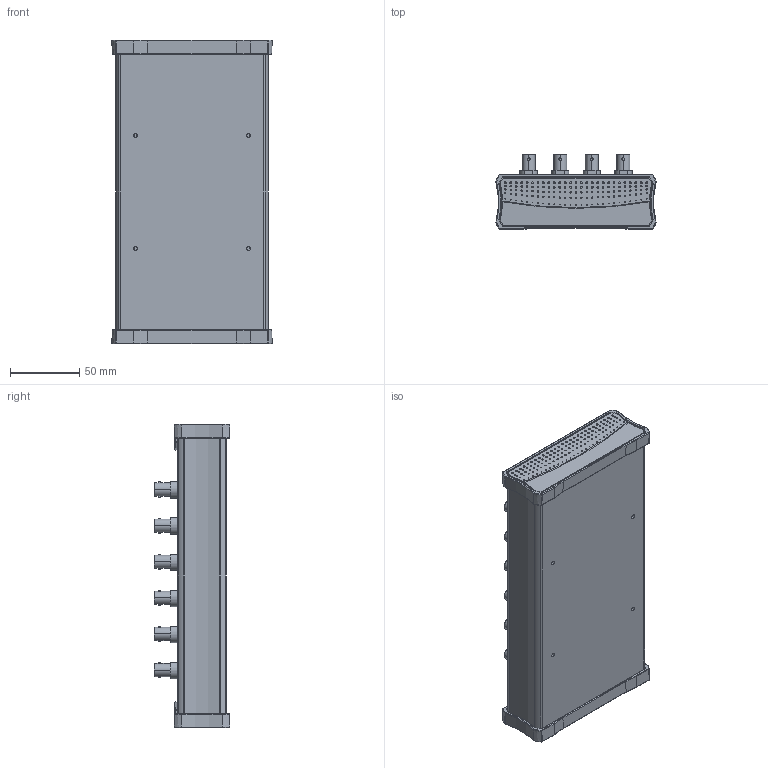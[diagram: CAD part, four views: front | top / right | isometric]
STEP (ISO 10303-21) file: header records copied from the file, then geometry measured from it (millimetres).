
FILE_DESCRIPTION((''),'2;1');
FILE_NAME('CD_BNC-2115','2008-01-15T',('scarrasc'),(''),'PRO/ENGINEER BY PARAMETRIC TECHNOLOGY CORPORATION, 2006080','PRO/ENGINEER BY PARAMETRIC TECHNOLOGY CORPORATION, 2006080','');
FILE_SCHEMA(('CONFIG_CONTROL_DESIGN'));
Products named in the file (1): CD_BNC-2115
Bounding box: 116.06 x 54.6 x 219.96 mm (x, y, z)
Volume: 314260.9 mm3; surface area: 223104.9 mm2
Topology: 1 solids, 1 shells, 4350 faces, 9962 edges, 6242 vertices
Faces by surface type: plane 1812, cylinder 1764, bspline 382, torus 216, sphere 108, cone 68
Entity records: 142692 total; most frequent: CARTESIAN_POINT 44666, DIRECTION 20545, ORIENTED_EDGE 19908, EDGE_CURVE 9954, AXIS2_PLACEMENT_3D 7676, VERTEX_POINT 6242, VECTOR 5193, LINE 5193
